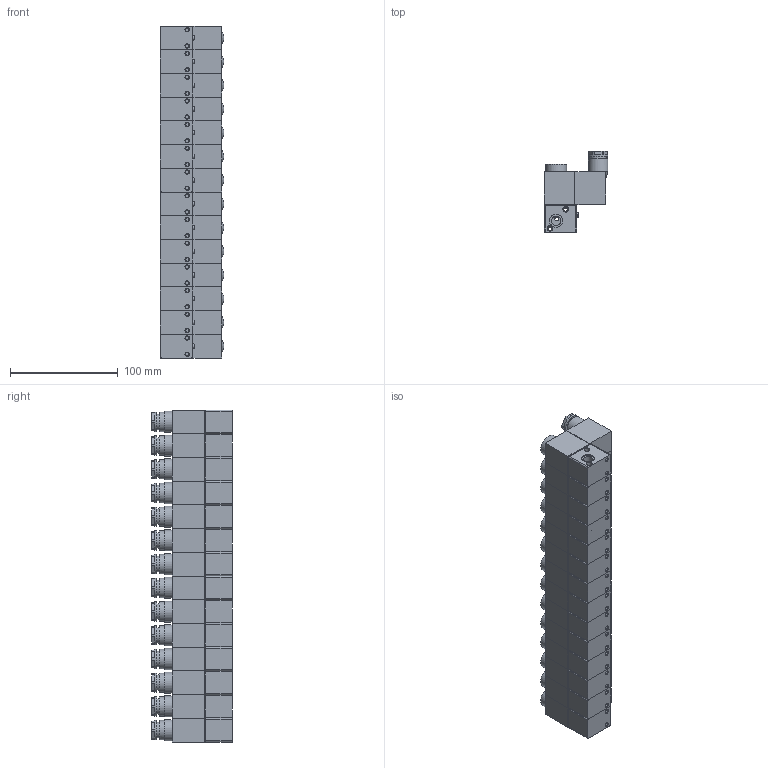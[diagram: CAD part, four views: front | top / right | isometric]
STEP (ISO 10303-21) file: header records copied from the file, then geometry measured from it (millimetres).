
FILE_DESCRIPTION(/* description */ ('STEP AP214'),/* implementation_level */ '2;1');
FILE_NAME(/* name */ '86-MS-3V-14-xxx.stp',/* time_stamp */ '2026-01-15T09:37:19+01:00',/* author */ ('Tschernatsch'),/* organization */ ('CADENAS'),/* preprocessor_version */ 'ST-DEVELOPER v20',/* originating_system */ 'Autodesk Inventor 2024',/* authorisation */ ' ');
FILE_SCHEMA (('AUTOMOTIVE_DESIGN { 1 0 10303 214 3 1 1 }'));
Length unit declared in the file: millimetre
Products named in the file (3): 3v1-06-LD-DC24V-14F; 3v1-06-LD-DC24V-14F3; 3v1-06-LD-DC24V-14F2
Assembly tree (28 placements, depth 2):
  3v1-06-LD-DC24V-14F
    3v1-06-LD-DC24V-14F3  x14
    3v1-06-LD-DC24V-14F2  x14
Bounding box: 59 x 75 x 308 mm (x, y, z)
Volume: 814772.8 mm3; surface area: 208050.4 mm2
Topology: 28 solids, 28 shells, 1260 faces, 2730 edges, 1806 vertices
Faces by surface type: plane 854, cylinder 350, cone 56
Full cylindrical faces by diameter (mm): 3.242 x28, 3.5 x42, 4 x14, 4.3 x14, 5.2 x56, 8.566 x42, 11 x14, 12 x28, 14.4 x14, 18 x28, 19.6 x14
Entity records: 2809 total; most frequent: DIRECTION 509, CARTESIAN_POINT 447, ORIENTED_EDGE 390, EDGE_CURVE 195, AXIS2_PLACEMENT_3D 194, VERTEX_POINT 129, LINE 121, VECTOR 121
